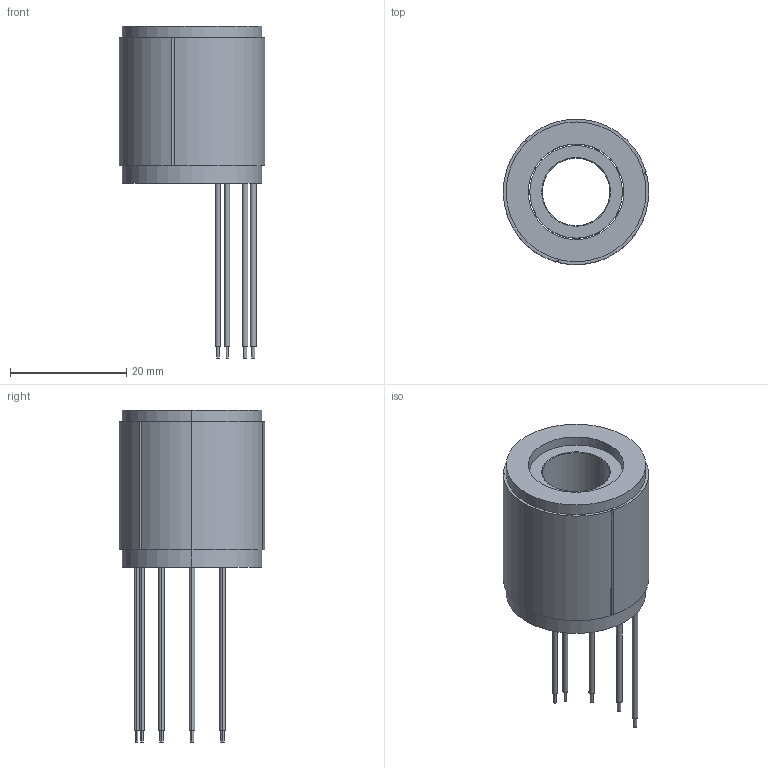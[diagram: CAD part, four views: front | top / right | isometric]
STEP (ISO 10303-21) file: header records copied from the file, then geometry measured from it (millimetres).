
FILE_DESCRIPTION (( 'STEP AP203' ), '1' );
FILE_NAME ('U2527-21743拸遺薯撻萇儂.STEP', '2025-12-13T02:01:38', ( 'MicroSoft' ), ( 'MicroSoft' ), 'SwSTEP 2.0', 'SolidWorks 2023', '' );
FILE_SCHEMA (( 'CONFIG_CONTROL_DESIGN' ));
Length unit declared in the file: millimetre
Products named in the file (1): U2527-21743无框力矩电机
Bounding box: 24.97 x 24.93 x 57 mm (x, y, z)
Volume: 9584.3 mm3; surface area: 6665.3 mm2
Topology: 2 solids, 2 shells, 58 faces, 122 edges, 80 vertices
Faces by surface type: cylinder 38, plane 16, cone 4
Entity records: 1677 total; most frequent: DIRECTION 320, CARTESIAN_POINT 261, ORIENTED_EDGE 244, AXIS2_PLACEMENT_3D 139, EDGE_CURVE 122, CIRCLE 80, VERTEX_POINT 80, EDGE_LOOP 74
